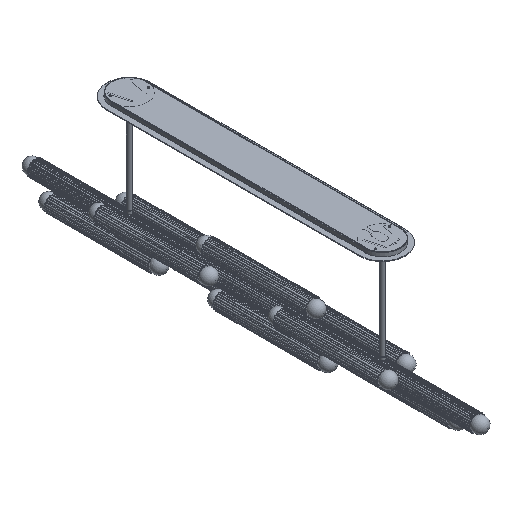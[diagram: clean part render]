
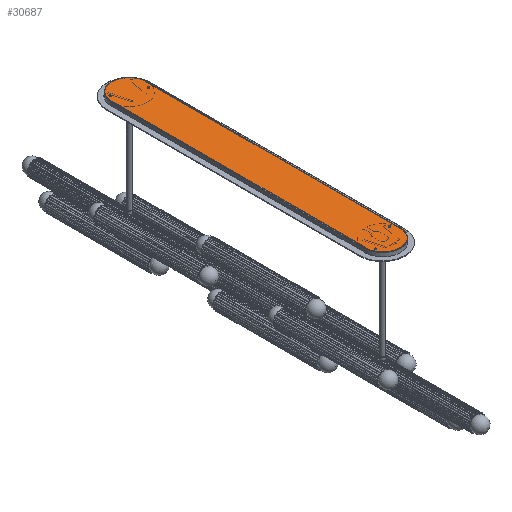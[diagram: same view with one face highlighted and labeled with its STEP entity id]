
A CAD part, isometric view. The second image highlights one B-rep face of the part: STEP entity #30687.
In plain terms, the highlighted planar face has unit normal (0, 0, 1).
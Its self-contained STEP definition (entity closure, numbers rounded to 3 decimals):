
#1043=PLANE('',#33942);
#3264=FACE_OUTER_BOUND('',#4951,.T.);
#4951=EDGE_LOOP('',(#26661,#26662,#26663,#26664,#26665,#26666,#26667,#26668,
#26669,#26670,#26671,#26672,#26673,#26674,#26675,#26676));
#7115=LINE('',#63226,#9296);
#7124=LINE('',#63277,#9305);
#7125=LINE('',#63281,#9306);
#7126=LINE('',#63285,#9307);
#7127=LINE('',#63293,#9308);
#7128=LINE('',#63297,#9309);
#9296=VECTOR('',#42386,10.);
#9305=VECTOR('',#42433,10.);
#9306=VECTOR('',#42436,10.);
#9307=VECTOR('',#42439,10.);
#9308=VECTOR('',#42446,10.);
#9309=VECTOR('',#42451,10.);
#10822=CIRCLE('',#33943,0.5);
#10823=CIRCLE('',#33944,53.5);
#10824=CIRCLE('',#33945,0.5);
#10825=CIRCLE('',#33946,0.5);
#10826=CIRCLE('',#33947,0.5);
#10827=CIRCLE('',#33948,0.5);
#10828=CIRCLE('',#33949,53.5);
#10829=CIRCLE('',#33950,0.5);
#10830=CIRCLE('',#33951,0.5);
#10831=CIRCLE('',#33952,0.5);
#13692=VERTEX_POINT('',#63223);
#13693=VERTEX_POINT('',#63225);
#13712=VERTEX_POINT('',#63269);
#13713=VERTEX_POINT('',#63270);
#13714=VERTEX_POINT('',#63272);
#13715=VERTEX_POINT('',#63274);
#13716=VERTEX_POINT('',#63276);
#13717=VERTEX_POINT('',#63278);
#13718=VERTEX_POINT('',#63280);
#13719=VERTEX_POINT('',#63282);
#13720=VERTEX_POINT('',#63284);
#13721=VERTEX_POINT('',#63286);
#13722=VERTEX_POINT('',#63288);
#13723=VERTEX_POINT('',#63290);
#13724=VERTEX_POINT('',#63292);
#13725=VERTEX_POINT('',#63295);
#18014=EDGE_CURVE('',#13693,#13692,#7115,.T.);
#18036=EDGE_CURVE('',#13712,#13713,#10822,.T.);
#18037=EDGE_CURVE('',#13714,#13712,#10823,.T.);
#18038=EDGE_CURVE('',#13715,#13714,#10824,.T.);
#18039=EDGE_CURVE('',#13715,#13716,#7124,.T.);
#18040=EDGE_CURVE('',#13716,#13717,#10825,.T.);
#18041=EDGE_CURVE('',#13717,#13718,#7125,.T.);
#18042=EDGE_CURVE('',#13718,#13719,#10826,.T.);
#18043=EDGE_CURVE('',#13719,#13720,#7126,.T.);
#18044=EDGE_CURVE('',#13721,#13720,#10827,.T.);
#18045=EDGE_CURVE('',#13722,#13721,#10828,.T.);
#18046=EDGE_CURVE('',#13723,#13722,#10829,.T.);
#18047=EDGE_CURVE('',#13723,#13724,#7127,.T.);
#18048=EDGE_CURVE('',#13724,#13693,#10830,.T.);
#18049=EDGE_CURVE('',#13692,#13725,#10831,.T.);
#18050=EDGE_CURVE('',#13725,#13713,#7128,.T.);
#26661=ORIENTED_EDGE('',*,*,#18036,.F.);
#26662=ORIENTED_EDGE('',*,*,#18037,.F.);
#26663=ORIENTED_EDGE('',*,*,#18038,.F.);
#26664=ORIENTED_EDGE('',*,*,#18039,.T.);
#26665=ORIENTED_EDGE('',*,*,#18040,.T.);
#26666=ORIENTED_EDGE('',*,*,#18041,.T.);
#26667=ORIENTED_EDGE('',*,*,#18042,.T.);
#26668=ORIENTED_EDGE('',*,*,#18043,.T.);
#26669=ORIENTED_EDGE('',*,*,#18044,.F.);
#26670=ORIENTED_EDGE('',*,*,#18045,.F.);
#26671=ORIENTED_EDGE('',*,*,#18046,.F.);
#26672=ORIENTED_EDGE('',*,*,#18047,.T.);
#26673=ORIENTED_EDGE('',*,*,#18048,.T.);
#26674=ORIENTED_EDGE('',*,*,#18014,.T.);
#26675=ORIENTED_EDGE('',*,*,#18049,.T.);
#26676=ORIENTED_EDGE('',*,*,#18050,.T.);
#30687=ADVANCED_FACE('',(#3264),#1043,.T.);
#33942=AXIS2_PLACEMENT_3D('',#63268,#42425,#42426);
#33943=AXIS2_PLACEMENT_3D('',#63271,#42427,#42428);
#33944=AXIS2_PLACEMENT_3D('',#63273,#42429,#42430);
#33945=AXIS2_PLACEMENT_3D('',#63275,#42431,#42432);
#33946=AXIS2_PLACEMENT_3D('',#63279,#42434,#42435);
#33947=AXIS2_PLACEMENT_3D('',#63283,#42437,#42438);
#33948=AXIS2_PLACEMENT_3D('',#63287,#42440,#42441);
#33949=AXIS2_PLACEMENT_3D('',#63289,#42442,#42443);
#33950=AXIS2_PLACEMENT_3D('',#63291,#42444,#42445);
#33951=AXIS2_PLACEMENT_3D('',#63294,#42447,#42448);
#33952=AXIS2_PLACEMENT_3D('',#63296,#42449,#42450);
#42386=DIRECTION('',(0.,-1.,0.));
#42425=DIRECTION('center_axis',(0.,0.,
1.));
#42426=DIRECTION('ref_axis',(0.,1.,0.));
#42427=DIRECTION('center_axis',(0.,0.,
-1.));
#42428=DIRECTION('ref_axis',(-0.71,0.704,0.));
#42429=DIRECTION('center_axis',(0.,0.,
-1.));
#42430=DIRECTION('ref_axis',(1.,0.,0.));
#42431=DIRECTION('center_axis',(0.,0.,
-1.));
#42432=DIRECTION('ref_axis',(0.71,0.704,0.));
#42433=DIRECTION('',(-1.,0.,0.));
#42434=DIRECTION('center_axis',(0.,0.,
-1.));
#42435=DIRECTION('ref_axis',(0.,1.,0.));
#42436=DIRECTION('',(0.,1.,0.));
#42437=DIRECTION('center_axis',(0.,0.,
-1.));
#42438=DIRECTION('ref_axis',(0.,-1.,0.));
#42439=DIRECTION('',(1.,0.,0.));
#42440=DIRECTION('center_axis',(0.,0.,
-1.));
#42441=DIRECTION('ref_axis',(0.71,-0.704,0.));
#42442=DIRECTION('center_axis',(0.,0.,
-1.));
#42443=DIRECTION('ref_axis',(-1.,0.,0.));
#42444=DIRECTION('center_axis',(0.,0.,
-1.));
#42445=DIRECTION('ref_axis',(-0.71,-0.704,0.));
#42446=DIRECTION('',(1.,0.,0.));
#42447=DIRECTION('center_axis',(0.,0.,
-1.));
#42448=DIRECTION('ref_axis',(0.,-1.,0.));
#42449=DIRECTION('center_axis',(0.,0.,
-1.));
#42450=DIRECTION('ref_axis',(0.,1.,0.));
#42451=DIRECTION('',(-1.,0.,0.));
#63223=CARTESIAN_POINT('',(17.5,291.,0.));
#63225=CARTESIAN_POINT('',(17.5,1069.,0.));
#63226=CARTESIAN_POINT('',(17.5,874.5,0.));
#63268=CARTESIAN_POINT('Origin',(70.,680.,0.));
#63269=CARTESIAN_POINT('',(16.502,289.495,0.));
#63270=CARTESIAN_POINT('',(17.002,290.,0.));
#63271=CARTESIAN_POINT('Origin',(17.002,289.5,0.));
#63272=CARTESIAN_POINT('',(123.498,289.495,0.));
#63273=CARTESIAN_POINT('Origin',(70.,290.,0.));
#63274=CARTESIAN_POINT('',(122.998,290.,0.));
#63275=CARTESIAN_POINT('Origin',(122.998,289.5,0.));
#63276=CARTESIAN_POINT('',(122.5,290.,0.));
#63277=CARTESIAN_POINT('',(96.75,290.,0.));
#63278=CARTESIAN_POINT('',(122.5,291.,0.));
#63279=CARTESIAN_POINT('Origin',(122.5,290.5,0.));
#63280=CARTESIAN_POINT('',(122.5,1069.,0.));
#63281=CARTESIAN_POINT('',(122.5,485.5,0.));
#63282=CARTESIAN_POINT('',(122.5,1070.,0.));
#63283=CARTESIAN_POINT('Origin',(122.5,1069.5,0.));
#63284=CARTESIAN_POINT('',(122.998,1070.,0.));
#63285=CARTESIAN_POINT('',(96.25,1070.,0.));
#63286=CARTESIAN_POINT('',(123.498,1070.505,0.));
#63287=CARTESIAN_POINT('Origin',(122.998,1070.5,0.));
#63288=CARTESIAN_POINT('',(16.502,1070.505,0.));
#63289=CARTESIAN_POINT('Origin',(70.,1070.,0.));
#63290=CARTESIAN_POINT('',(17.002,1070.,0.));
#63291=CARTESIAN_POINT('Origin',(17.002,1070.5,0.));
#63292=CARTESIAN_POINT('',(17.5,1070.,0.));
#63293=CARTESIAN_POINT('',(43.25,1070.,0.));
#63294=CARTESIAN_POINT('Origin',(17.5,1069.5,0.));
#63295=CARTESIAN_POINT('',(17.5,290.,0.));
#63296=CARTESIAN_POINT('Origin',(17.5,290.5,0.));
#63297=CARTESIAN_POINT('',(43.75,290.,0.));
